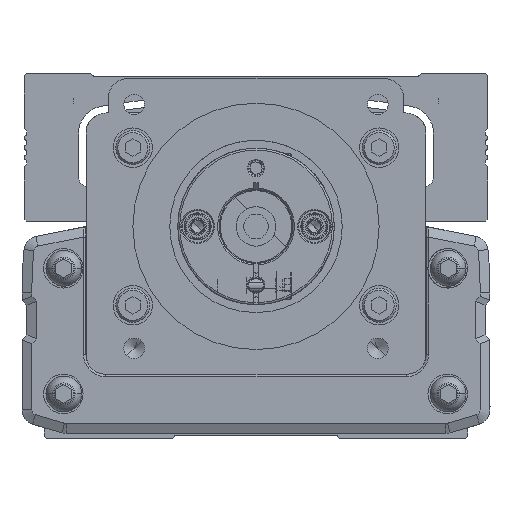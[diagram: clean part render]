
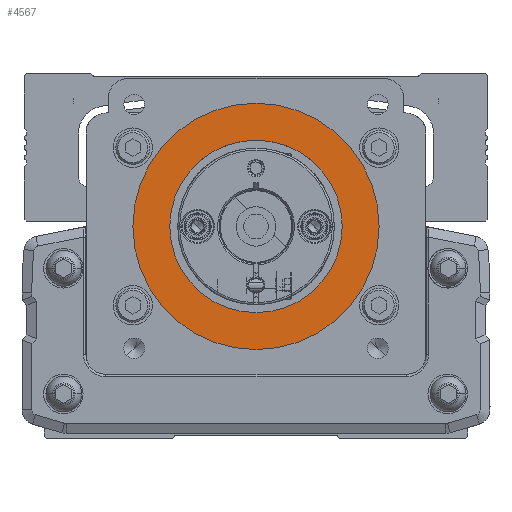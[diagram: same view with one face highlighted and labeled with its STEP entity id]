
A CAD part, front view. The second image highlights one B-rep face of the part: STEP entity #4567.
In plain terms, the highlighted planar face has unit normal (0, -1, 0).
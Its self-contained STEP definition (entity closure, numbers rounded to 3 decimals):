
#4567=ADVANCED_FACE('',(#11545,#11546),#11547,.T.);
#11545=FACE_BOUND('',#21679,.T.);
#11546=FACE_OUTER_BOUND('',#21680,.T.);
#11547=PLANE('',#21681);
#21679=EDGE_LOOP('',(#36853,#36854));
#21680=EDGE_LOOP('',(#36855,#36856));
#21681=AXIS2_PLACEMENT_3D('',#36857,#36858,#36859);
#36853=ORIENTED_EDGE('',*,*,#62583,.T.);
#36854=ORIENTED_EDGE('',*,*,#62584,.T.);
#36855=ORIENTED_EDGE('',*,*,#62585,.F.);
#36856=ORIENTED_EDGE('',*,*,#60685,.F.);
#36857=CARTESIAN_POINT('',(0.,-210.778,0.));
#36858=DIRECTION('',(0.,-1.0,0.));
#36859=DIRECTION('',(1.0,0.,0.));
#60685=EDGE_CURVE('',#72875,#72870,#72877,.T.);
#62583=EDGE_CURVE('',#76102,#76103,#76104,.T.);
#62584=EDGE_CURVE('',#76103,#76102,#76105,.T.);
#62585=EDGE_CURVE('',#72870,#72875,#76106,.T.);
#72870=VERTEX_POINT('',#89945);
#72875=VERTEX_POINT('',#89951);
#72877=CIRCLE('',#89954,25.0);
#76102=VERTEX_POINT('',#94550);
#76103=VERTEX_POINT('',#94551);
#76104=CIRCLE('',#94552,17.5);
#76105=CIRCLE('',#94553,17.5);
#76106=CIRCLE('',#94554,25.0);
#89945=CARTESIAN_POINT('',(25.,-210.778,0.));
#89951=CARTESIAN_POINT('',(-25.,-210.778,0.));
#89954=AXIS2_PLACEMENT_3D('',#111210,#111211,#111212);
#94550=CARTESIAN_POINT('',(17.5,-210.778,0.));
#94551=CARTESIAN_POINT('',(-17.5,-210.778,0.));
#94552=AXIS2_PLACEMENT_3D('',#113714,#113715,#113716);
#94553=AXIS2_PLACEMENT_3D('',#113717,#113718,#113719);
#94554=AXIS2_PLACEMENT_3D('',#113720,#113721,#113722);
#111210=CARTESIAN_POINT('',(0.,-210.778,0.));
#111211=DIRECTION('',(0.,1.0,0.));
#111212=DIRECTION('',(1.0,0.,0.));
#113714=CARTESIAN_POINT('',(0.,-210.778,0.));
#113715=DIRECTION('',(0.,1.0,0.));
#113716=DIRECTION('',(-1.0,0.,0.));
#113717=CARTESIAN_POINT('',(0.,-210.778,0.));
#113718=DIRECTION('',(0.,1.0,0.));
#113719=DIRECTION('',(-1.0,0.,0.));
#113720=CARTESIAN_POINT('',(0.,-210.778,0.));
#113721=DIRECTION('',(0.,1.0,0.));
#113722=DIRECTION('',(1.0,0.,0.));
